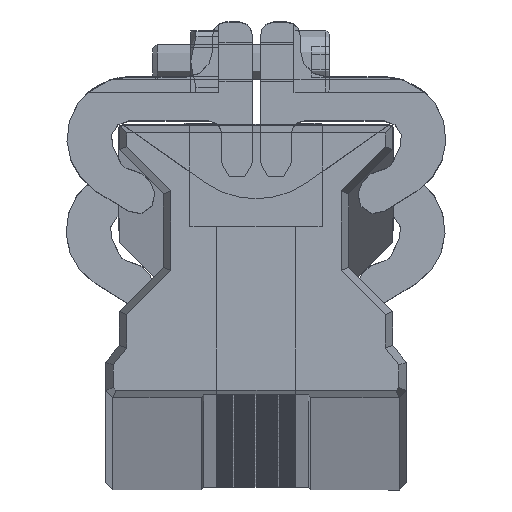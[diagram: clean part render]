
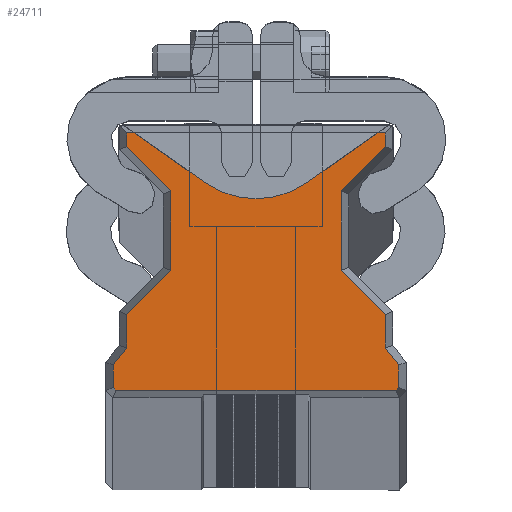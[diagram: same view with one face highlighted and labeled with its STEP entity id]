
A CAD part, top view. The second image highlights one B-rep face of the part: STEP entity #24711.
In plain terms, the highlighted planar face has unit normal (0, 0, 1).
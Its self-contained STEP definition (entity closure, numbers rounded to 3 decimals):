
#9062=DIRECTION('',(1.,0.,0.));
#9063=VECTOR('',#9062,31.696);
#9064=CARTESIAN_POINT('',(-15.848,0.85,0.));
#9065=LINE('',#9064,#9063);
#9066=DIRECTION('',(0.707,-0.707,0.));
#9067=VECTOR('',#9066,0.427);
#9068=CARTESIAN_POINT('',(-16.15,1.152,0.));
#9069=LINE('',#9068,#9067);
#9070=DIRECTION('',(0.,-1.,0.));
#9071=VECTOR('',#9070,2.553);
#9072=CARTESIAN_POINT('',(-16.15,3.705,0.));
#9073=LINE('',#9072,#9071);
#9074=DIRECTION('',(0.62,0.785,0.));
#9075=VECTOR('',#9074,2.421);
#9076=CARTESIAN_POINT('',(-16.15,3.705,0.));
#9077=LINE('',#9076,#9075);
#9078=DIRECTION('',(0.,-1.,0.));
#9079=VECTOR('',#9078,3.788);
#9080=CARTESIAN_POINT('',(-14.65,9.393,0.));
#9081=LINE('',#9080,#9079);
#9082=DIRECTION('',(-0.707,-0.707,0.));
#9083=VECTOR('',#9082,7.071);
#9084=CARTESIAN_POINT('',(-9.65,14.393,0.));
#9085=LINE('',#9084,#9083);
#9086=DIRECTION('',(0.,-1.,0.));
#9087=VECTOR('',#9086,9.013);
#9088=CARTESIAN_POINT('',(-9.65,23.407,0.));
#9089=LINE('',#9088,#9087);
#9090=DIRECTION('',(0.707,-0.707,0.));
#9091=VECTOR('',#9090,7.071);
#9092=CARTESIAN_POINT('',(-14.65,28.407,0.));
#9093=LINE('',#9092,#9091);
#9094=DIRECTION('',(0.,-1.,0.));
#9095=VECTOR('',#9094,1.543);
#9096=CARTESIAN_POINT('',(-14.65,29.95,0.));
#9097=LINE('',#9096,#9095);
#9098=DIRECTION('',(-1.,0.,0.));
#9099=VECTOR('',#9098,29.3);
#9100=CARTESIAN_POINT('',(14.65,29.95,0.));
#9101=LINE('',#9100,#9099);
#9102=DIRECTION('',(0.,1.,0.));
#9103=VECTOR('',#9102,1.543);
#9104=CARTESIAN_POINT('',(14.65,28.407,0.));
#9105=LINE('',#9104,#9103);
#9106=DIRECTION('',(-0.707,-0.707,0.));
#9107=VECTOR('',#9106,7.071);
#9108=CARTESIAN_POINT('',(14.65,28.407,0.));
#9109=LINE('',#9108,#9107);
#9110=DIRECTION('',(0.,1.,0.));
#9111=VECTOR('',#9110,9.013);
#9112=CARTESIAN_POINT('',(9.65,14.393,0.));
#9113=LINE('',#9112,#9111);
#9114=DIRECTION('',(-0.707,0.707,0.));
#9115=VECTOR('',#9114,7.071);
#9116=CARTESIAN_POINT('',(14.65,9.393,0.));
#9117=LINE('',#9116,#9115);
#9118=DIRECTION('',(0.,1.,0.));
#9119=VECTOR('',#9118,3.788);
#9120=CARTESIAN_POINT('',(14.65,5.605,0.));
#9121=LINE('',#9120,#9119);
#9122=DIRECTION('',(-0.62,0.785,0.));
#9123=VECTOR('',#9122,2.421);
#9124=CARTESIAN_POINT('',(16.15,3.705,0.));
#9125=LINE('',#9124,#9123);
#9126=DIRECTION('',(0.,1.,0.));
#9127=VECTOR('',#9126,2.553);
#9128=CARTESIAN_POINT('',(16.15,1.152,0.));
#9129=LINE('',#9128,#9127);
#9130=DIRECTION('',(0.707,0.707,0.));
#9131=VECTOR('',#9130,0.427);
#9132=CARTESIAN_POINT('',(15.848,0.85,0.));
#9133=LINE('',#9132,#9131);
#9510=CARTESIAN_POINT('',(-15.848,0.85,0.));
#9511=CARTESIAN_POINT('',(15.848,0.85,0.));
#9512=VERTEX_POINT('',#9510);
#9513=VERTEX_POINT('',#9511);
#9514=CARTESIAN_POINT('',(16.15,1.152,0.));
#9515=VERTEX_POINT('',#9514);
#9516=CARTESIAN_POINT('',(16.15,3.705,0.));
#9517=VERTEX_POINT('',#9516);
#9518=CARTESIAN_POINT('',(14.65,5.605,0.));
#9519=VERTEX_POINT('',#9518);
#9520=CARTESIAN_POINT('',(14.65,9.393,0.));
#9521=VERTEX_POINT('',#9520);
#9522=CARTESIAN_POINT('',(9.65,14.393,0.));
#9523=VERTEX_POINT('',#9522);
#9524=CARTESIAN_POINT('',(9.65,23.407,0.));
#9525=VERTEX_POINT('',#9524);
#9526=CARTESIAN_POINT('',(14.65,28.407,0.));
#9527=VERTEX_POINT('',#9526);
#9528=CARTESIAN_POINT('',(14.65,29.95,0.));
#9529=VERTEX_POINT('',#9528);
#9530=CARTESIAN_POINT('',(-14.65,29.95,0.));
#9531=VERTEX_POINT('',#9530);
#9532=CARTESIAN_POINT('',(-14.65,28.407,0.));
#9533=VERTEX_POINT('',#9532);
#9534=CARTESIAN_POINT('',(-9.65,23.407,0.));
#9535=VERTEX_POINT('',#9534);
#9536=CARTESIAN_POINT('',(-9.65,14.393,0.));
#9537=VERTEX_POINT('',#9536);
#9538=CARTESIAN_POINT('',(-14.65,9.393,0.));
#9539=VERTEX_POINT('',#9538);
#9540=CARTESIAN_POINT('',(-14.65,5.605,0.));
#9541=VERTEX_POINT('',#9540);
#9542=CARTESIAN_POINT('',(-16.15,3.705,0.));
#9543=VERTEX_POINT('',#9542);
#11846=CARTESIAN_POINT('',(-16.15,1.152,0.));
#11847=VERTEX_POINT('',#11846);
#24669=CARTESIAN_POINT('',(0.,0.,0.));
#24670=DIRECTION('',(0.,0.,1.));
#24671=DIRECTION('',(1.,0.,0.));
#24672=AXIS2_PLACEMENT_3D('',#24669,#24670,#24671);
#24673=PLANE('',#24672);
#24675=ORIENTED_EDGE('',*,*,#24674,.F.);
#24677=ORIENTED_EDGE('',*,*,#24676,.F.);
#24679=ORIENTED_EDGE('',*,*,#24678,.F.);
#24681=ORIENTED_EDGE('',*,*,#24680,.T.);
#24683=ORIENTED_EDGE('',*,*,#24682,.F.);
#24685=ORIENTED_EDGE('',*,*,#24684,.F.);
#24687=ORIENTED_EDGE('',*,*,#24686,.F.);
#24688=ORIENTED_EDGE('',*,*,#24659,.F.);
#24690=ORIENTED_EDGE('',*,*,#24689,.F.);
#24692=ORIENTED_EDGE('',*,*,#24691,.F.);
#24694=ORIENTED_EDGE('',*,*,#24693,.F.);
#24696=ORIENTED_EDGE('',*,*,#24695,.T.);
#24698=ORIENTED_EDGE('',*,*,#24697,.F.);
#24700=ORIENTED_EDGE('',*,*,#24699,.F.);
#24702=ORIENTED_EDGE('',*,*,#24701,.F.);
#24704=ORIENTED_EDGE('',*,*,#24703,.F.);
#24706=ORIENTED_EDGE('',*,*,#24705,.F.);
#24708=ORIENTED_EDGE('',*,*,#24707,.F.);
#24709=EDGE_LOOP('',(#24675,#24677,#24679,#24681,#24683,#24685,#24687,#24688,
#24690,#24692,#24694,#24696,#24698,#24700,#24702,#24704,#24706,#24708));
#24710=FACE_OUTER_BOUND('',#24709,.F.);
#24659=EDGE_CURVE('',#9533,#9535,#9093,.T.);
#24674=EDGE_CURVE('',#9512,#9513,#9065,.T.);
#24676=EDGE_CURVE('',#11847,#9512,#9069,.T.);
#24678=EDGE_CURVE('',#9543,#11847,#9073,.T.);
#24680=EDGE_CURVE('',#9543,#9541,#9077,.T.);
#24682=EDGE_CURVE('',#9539,#9541,#9081,.T.);
#24684=EDGE_CURVE('',#9537,#9539,#9085,.T.);
#24686=EDGE_CURVE('',#9535,#9537,#9089,.T.);
#24689=EDGE_CURVE('',#9531,#9533,#9097,.T.);
#24691=EDGE_CURVE('',#9529,#9531,#9101,.T.);
#24693=EDGE_CURVE('',#9527,#9529,#9105,.T.);
#24695=EDGE_CURVE('',#9527,#9525,#9109,.T.);
#24697=EDGE_CURVE('',#9523,#9525,#9113,.T.);
#24699=EDGE_CURVE('',#9521,#9523,#9117,.T.);
#24701=EDGE_CURVE('',#9519,#9521,#9121,.T.);
#24703=EDGE_CURVE('',#9517,#9519,#9125,.T.);
#24705=EDGE_CURVE('',#9515,#9517,#9129,.T.);
#24707=EDGE_CURVE('',#9513,#9515,#9133,.T.);
#24711=ADVANCED_FACE('',(#24710),#24673,.T.);
